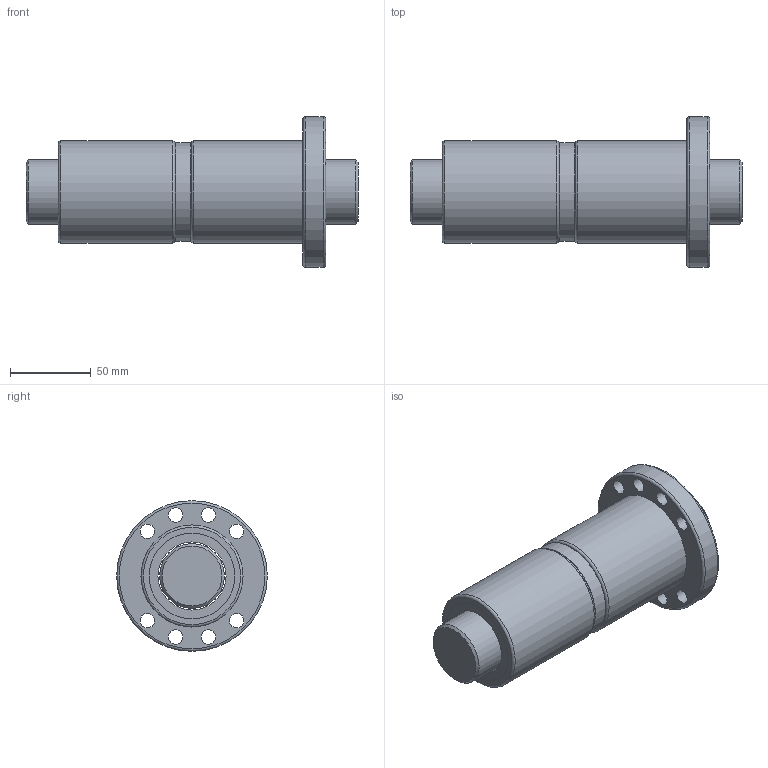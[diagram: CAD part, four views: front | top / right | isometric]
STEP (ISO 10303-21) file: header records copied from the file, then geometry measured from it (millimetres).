
FILE_DESCRIPTION(/* description */ (''),/* implementation_level */ '2;1');
FILE_NAME(/* name */ 'DFU4010',/* time_stamp */ '2007-10-26T10:59:31+08:00',/* author */ (''),/* organization */ (''),/* preprocessor_version */ 'ST-DEVELOPER v9',/* originating_system */ 'EDS PLM SOLUTIONS - UNIGRAPHICS NX 1.0',/* authorisation */ '');
FILE_SCHEMA (('CONFIG_CONTROL_DESIGN'));
Length unit declared in the file: millimetre
Products named in the file (1): FANNDA0400d2
Bounding box: 205 x 93 x 93 mm (x, y, z)
Volume: 584884.5 mm3; surface area: 109666.9 mm2
Topology: 6 solids, 6 shells, 46 faces, 91 edges, 60 vertices
Faces by surface type: cylinder 22, plane 15, torus 7, cone 2
Full cylindrical faces by diameter (mm): 9 x8, 40 x1, 42 x5, 53 x4, 61 x1, 63 x2, 93 x1
Entity records: 1122 total; most frequent: DIRECTION 200, CARTESIAN_POINT 153, EDGE_LOOP 106, ORIENTED_EDGE 106, AXIS2_PLACEMENT_3D 100, FACE_BOUND 89, VERTEX_POINT 53, EDGE_CURVE 53
